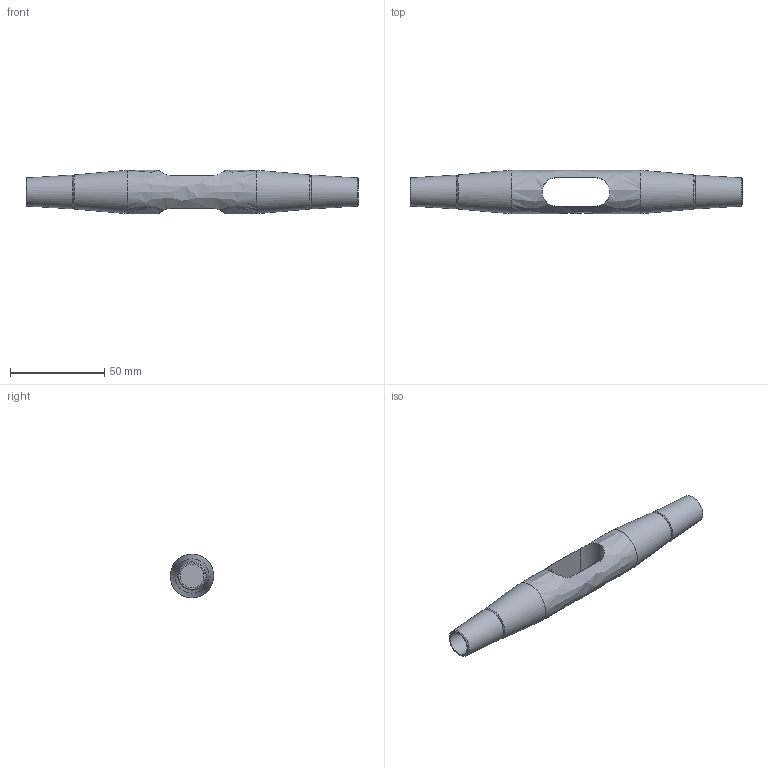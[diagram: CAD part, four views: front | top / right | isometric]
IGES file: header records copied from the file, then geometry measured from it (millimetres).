
Global section: file name: 520-012-KMF; native system: Autodesk Inventor 2016; preprocessor: unknown; author: Administrator; date: 20200702.131755; units: centimetre
Bounding box: 176 x 23 x 23 mm (x, y, z)
Volume: 42960.9 mm3; surface area: 13765.6 mm2
Topology: 1 solids, 1 shells, 21 faces, 55 edges, 38 vertices
Faces by surface type: bspline 21
